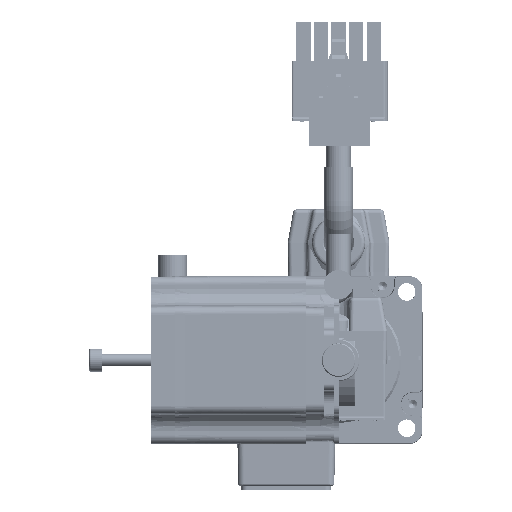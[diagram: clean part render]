
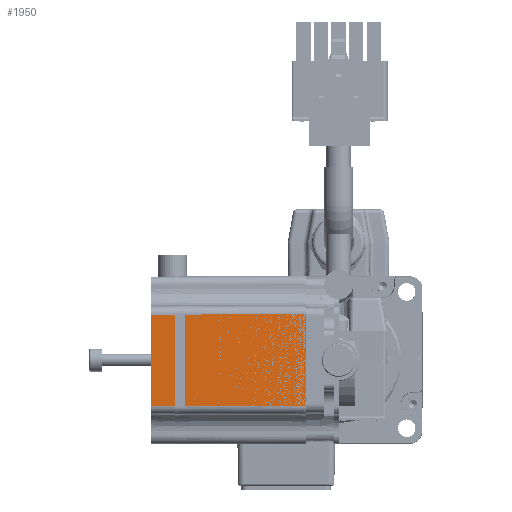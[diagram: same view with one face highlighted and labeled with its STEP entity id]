
A CAD part, front view. The second image highlights one B-rep face of the part: STEP entity #1950.
In plain terms, the highlighted planar face has unit normal (-0.004, -1, 0).
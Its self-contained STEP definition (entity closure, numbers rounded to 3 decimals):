
#1950 = ADVANCED_FACE( '', ( #5051 ), #5052, .T. );
#5051 = FACE_OUTER_BOUND( '', #9984, .T. );
#5052 = PLANE( '', #9985 );
#9984 = EDGE_LOOP( '', ( #20575, #20576, #20577, #20578 ) );
#9985 = AXIS2_PLACEMENT_3D( '', #20579, #20580, #20581 );
#20575 = ORIENTED_EDGE( '', *, *, #34043, .T. );
#20576 = ORIENTED_EDGE( '', *, *, #34044, .T. );
#20577 = ORIENTED_EDGE( '', *, *, #34045, .T. );
#20578 = ORIENTED_EDGE( '', *, *, #34046, .T. );
#20579 = CARTESIAN_POINT( '', ( -7., -20.1, 0. ) );
#20580 = DIRECTION( '', ( -0.004, -1., 0. ) );
#20581 = DIRECTION( '', ( 1., -0.004, 0. ) );
#34043 = EDGE_CURVE( '', #41877, #41878, #41879, .T. );
#34044 = EDGE_CURVE( '', #41878, #41880, #41881, .T. );
#34045 = EDGE_CURVE( '', #41880, #41882, #41883, .T. );
#34046 = EDGE_CURVE( '', #41882, #41877, #41884, .T. );
#41877 = VERTEX_POINT( '', #59390 );
#41878 = VERTEX_POINT( '', #59391 );
#41879 = LINE( '', #59392, #59393 );
#41880 = VERTEX_POINT( '', #59394 );
#41881 = LINE( '', #59395, #59396 );
#41882 = VERTEX_POINT( '', #59397 );
#41883 = LINE( '', #59398, #59399 );
#41884 = LINE( '', #59400, #59401 );
#59390 = CARTESIAN_POINT( '', ( -44.75, -19.935, -10.835 ) );
#59391 = CARTESIAN_POINT( '', ( -7.75, -20.097, -10.997 ) );
#59392 = CARTESIAN_POINT( '', ( -6.991, -20.1, -11. ) );
#59393 = VECTOR( '', #76076, 1000. );
#59394 = CARTESIAN_POINT( '', ( -7.75, -20.097, 10.997 ) );
#59395 = CARTESIAN_POINT( '', ( -7.75, -20.097, 0. ) );
#59396 = VECTOR( '', #76077, 1000. );
#59397 = CARTESIAN_POINT( '', ( -44.75, -19.935, 10.835 ) );
#59398 = CARTESIAN_POINT( '', ( -63.491, -19.854, 10.754 ) );
#59399 = VECTOR( '', #76078, 1000. );
#59400 = CARTESIAN_POINT( '', ( -44.75, -19.935, 0. ) );
#59401 = VECTOR( '', #76079, 1000. );
#76076 = DIRECTION( '', ( 1., -0.004, -0.004 ) );
#76077 = DIRECTION( '', ( 0., 0., 1. ) );
#76078 = DIRECTION( '', ( -1., 0.004, -0.004 ) );
#76079 = DIRECTION( '', ( 0., 0., -1. ) );
